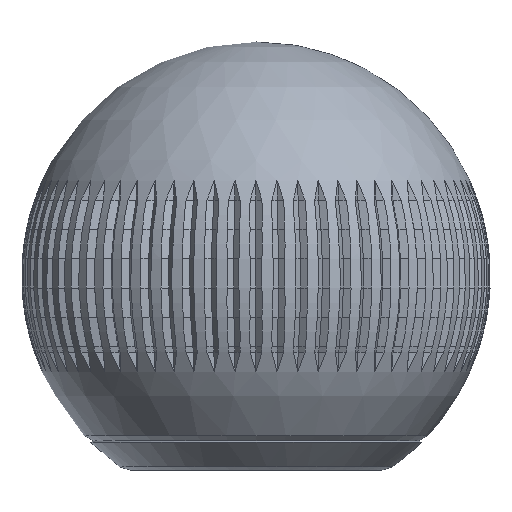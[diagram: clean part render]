
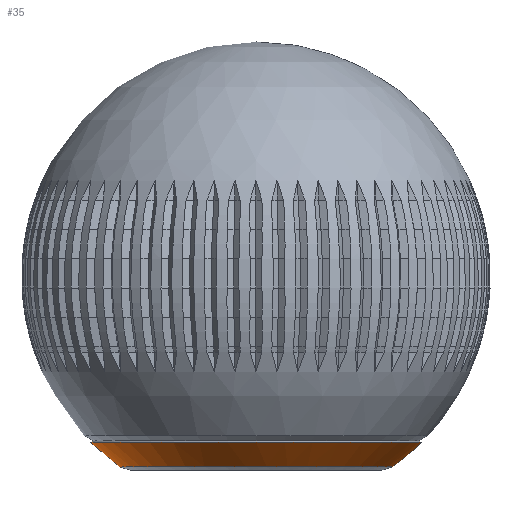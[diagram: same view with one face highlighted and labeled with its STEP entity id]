
A CAD part, front view. The second image highlights one B-rep face of the part: STEP entity #35.
In plain terms, the highlighted spherical face has radius 8 mm.
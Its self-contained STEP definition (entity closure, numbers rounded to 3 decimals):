
#35 = ADVANCED_FACE('',(#36),#51,.T.);
#36 = FACE_BOUND('',#37,.T.);
#37 = EDGE_LOOP('',(#38,#69,#152,#153));
#38 = ORIENTED_EDGE('',*,*,#39,.F.);
#39 = EDGE_CURVE('',#40,#42,#44,.T.);
#40 = VERTEX_POINT('',#41);
#41 = CARTESIAN_POINT('',(4.664,0.,0.115));
#42 = VERTEX_POINT('',#43);
#43 = CARTESIAN_POINT('',(5.646,0.,
    0.946));
#44 = SEAM_CURVE('',#45,(#50,#62),.PCURVE_S1.);
#45 = CIRCLE('',#46,8.);
#46 = AXIS2_PLACEMENT_3D('',#47,#48,#49);
#47 = CARTESIAN_POINT('',(0.,0.,6.614));
#48 = DIRECTION('',(0.,-1.,0.));
#49 = DIRECTION('',(1.,0.,0.));
#50 = PCURVE('',#51,#56);
#51 = SPHERICAL_SURFACE('',#52,8.);
#52 = AXIS2_PLACEMENT_3D('',#53,#54,#55);
#53 = CARTESIAN_POINT('',(0.,0.,6.614));
#54 = DIRECTION('',(0.,0.,1.));
#55 = DIRECTION('',(1.,0.,-0.));
#56 = DEFINITIONAL_REPRESENTATION('',(#57),#61);
#57 = LINE('',#58,#59);
#58 = CARTESIAN_POINT('',(0.,-6.283));
#59 = VECTOR('',#60,1.);
#60 = DIRECTION('',(0.,1.));
#61 = ( GEOMETRIC_REPRESENTATION_CONTEXT(2) 
PARAMETRIC_REPRESENTATION_CONTEXT() REPRESENTATION_CONTEXT('2D SPACE',''
  ) );
#62 = PCURVE('',#51,#63);
#63 = DEFINITIONAL_REPRESENTATION('',(#64),#68);
#64 = LINE('',#65,#66);
#65 = CARTESIAN_POINT('',(6.283,-6.283));
#66 = VECTOR('',#67,1.);
#67 = DIRECTION('',(0.,1.));
#68 = ( GEOMETRIC_REPRESENTATION_CONTEXT(2) 
PARAMETRIC_REPRESENTATION_CONTEXT() REPRESENTATION_CONTEXT('2D SPACE',''
  ) );
#69 = ORIENTED_EDGE('',*,*,#70,.T.);
#70 = EDGE_CURVE('',#40,#40,#71,.T.);
#71 = SURFACE_CURVE('',#72,(#88,#114),.PCURVE_S1.);
#72 = B_SPLINE_CURVE_WITH_KNOTS('',14,(#73,#74,#75,#76,#77,#78,#79,#80,
    #81,#82,#83,#84,#85,#86,#87),.UNSPECIFIED.,.T.,.F.,(15,15),(
    0.,28.274),.PIECEWISE_BEZIER_KNOTS.);
#73 = CARTESIAN_POINT('',(4.664,0.,0.115));
#74 = CARTESIAN_POINT('',(4.664,2.063,0.115)
  );
#75 = CARTESIAN_POINT('',(3.681,4.17,0.115)
  );
#76 = CARTESIAN_POINT('',(1.647,5.771,0.115));
#77 = CARTESIAN_POINT('',(-1.127,6.298,0.115)
  );
#78 = CARTESIAN_POINT('',(-4.001,5.256,0.115)
  );
#79 = CARTESIAN_POINT('',(-5.929,3.192,0.115)
  );
#80 = CARTESIAN_POINT('',(-7.149,0.,
    0.115));
#81 = CARTESIAN_POINT('',(-5.929,-3.192,0.115
    ));
#82 = CARTESIAN_POINT('',(-4.001,-5.256,0.115)
  );
#83 = CARTESIAN_POINT('',(-1.127,-6.298,0.115
    ));
#84 = CARTESIAN_POINT('',(1.647,-5.771,0.115)
  );
#85 = CARTESIAN_POINT('',(3.681,-4.17,0.115));
#86 = CARTESIAN_POINT('',(4.664,-2.063,0.115)
  );
#87 = CARTESIAN_POINT('',(4.664,0.,
    0.115));
#88 = PCURVE('',#51,#89);
#89 = DEFINITIONAL_REPRESENTATION('',(#90),#113);
#90 = B_SPLINE_CURVE_WITH_KNOTS('',11,(#91,#92,#93,#94,#95,#96,#97,#98,
    #99,#100,#101,#102,#103,#104,#105,#106,#107,#108,#109,#110,#111,#112
    ),.UNSPECIFIED.,.F.,.F.,(12,10,12),(0.,
    14.137,28.274),.UNSPECIFIED.);
#91 = CARTESIAN_POINT('',(0.,-0.948));
#92 = CARTESIAN_POINT('',(0.281,-0.948));
#93 = CARTESIAN_POINT('',(0.567,-0.948));
#94 = CARTESIAN_POINT('',(0.854,-0.948));
#95 = CARTESIAN_POINT('',(1.141,-0.948));
#96 = CARTESIAN_POINT('',(1.427,-0.948));
#97 = CARTESIAN_POINT('',(1.714,-0.948));
#98 = CARTESIAN_POINT('',(1.999,-0.948));
#99 = CARTESIAN_POINT('',(2.285,-0.948));
#100 = CARTESIAN_POINT('',(2.57,-0.948));
#101 = CARTESIAN_POINT('',(2.856,-0.948));
#102 = CARTESIAN_POINT('',(3.427,-0.948));
#103 = CARTESIAN_POINT('',(3.713,-0.948));
#104 = CARTESIAN_POINT('',(3.998,-0.948));
#105 = CARTESIAN_POINT('',(4.284,-0.948));
#106 = CARTESIAN_POINT('',(4.569,-0.948));
#107 = CARTESIAN_POINT('',(4.856,-0.948));
#108 = CARTESIAN_POINT('',(5.142,-0.948));
#109 = CARTESIAN_POINT('',(5.43,-0.948));
#110 = CARTESIAN_POINT('',(5.716,-0.948));
#111 = CARTESIAN_POINT('',(6.002,-0.948));
#112 = CARTESIAN_POINT('',(6.283,-0.948));
#113 = ( GEOMETRIC_REPRESENTATION_CONTEXT(2) 
PARAMETRIC_REPRESENTATION_CONTEXT() REPRESENTATION_CONTEXT('2D SPACE',''
  ) );
#114 = PCURVE('',#115,#146);
#115 = B_SPLINE_SURFACE_WITH_KNOTS('',1,14,(
    (#116,#117,#118,#119,#120,#121,#122,#123,#124,#125,#126,#127,#128
      ,#129,#130)
    ,(#131,#132,#133,#134,#135,#136,#137,#138,#139,#140,#141,#142,#143
      ,#144,#145
    )),.UNSPECIFIED.,.F.,.T.,.F.,(2,2),(15,15),(0.,28.274),(
    0.,28.274),.PIECEWISE_BEZIER_KNOTS.);
#116 = CARTESIAN_POINT('',(4.664,0.,0.115));
#117 = CARTESIAN_POINT('',(4.664,2.063,0.115)
  );
#118 = CARTESIAN_POINT('',(3.681,4.17,0.115)
  );
#119 = CARTESIAN_POINT('',(1.647,5.771,0.115)
  );
#120 = CARTESIAN_POINT('',(-1.127,6.298,0.115
    ));
#121 = CARTESIAN_POINT('',(-4.001,5.256,0.115
    ));
#122 = CARTESIAN_POINT('',(-5.929,3.192,0.115
    ));
#123 = CARTESIAN_POINT('',(-7.149,0.,
    0.115));
#124 = CARTESIAN_POINT('',(-5.929,-3.192,
    0.115));
#125 = CARTESIAN_POINT('',(-4.001,-5.256,0.115
    ));
#126 = CARTESIAN_POINT('',(-1.127,-6.298,
    0.115));
#127 = CARTESIAN_POINT('',(1.647,-5.771,0.115
    ));
#128 = CARTESIAN_POINT('',(3.681,-4.17,0.115)
  );
#129 = CARTESIAN_POINT('',(4.664,-2.063,0.115
    ));
#130 = CARTESIAN_POINT('',(4.664,0.,
    0.115));
#131 = CARTESIAN_POINT('',(4.3,0.,0.));
#132 = CARTESIAN_POINT('',(4.3,1.902,0.));
#133 = CARTESIAN_POINT('',(3.394,3.844,0.));
#134 = CARTESIAN_POINT('',(1.519,5.321,0.));
#135 = CARTESIAN_POINT('',(-1.039,5.806,0.));
#136 = CARTESIAN_POINT('',(-3.689,4.845,0.));
#137 = CARTESIAN_POINT('',(-5.467,2.943,0.));
#138 = CARTESIAN_POINT('',(-6.591,0.,0.));
#139 = CARTESIAN_POINT('',(-5.467,-2.943,0.));
#140 = CARTESIAN_POINT('',(-3.689,-4.845,0.));
#141 = CARTESIAN_POINT('',(-1.039,-5.806,0.));
#142 = CARTESIAN_POINT('',(1.519,-5.321,0.));
#143 = CARTESIAN_POINT('',(3.394,-3.844,0.));
#144 = CARTESIAN_POINT('',(4.3,-1.902,0.));
#145 = CARTESIAN_POINT('',(4.3,0.,0.));
#146 = DEFINITIONAL_REPRESENTATION('',(#147),#151);
#147 = LINE('',#148,#149);
#148 = CARTESIAN_POINT('',(0.,0.));
#149 = VECTOR('',#150,1.);
#150 = DIRECTION('',(0.,1.));
#151 = ( GEOMETRIC_REPRESENTATION_CONTEXT(2) 
PARAMETRIC_REPRESENTATION_CONTEXT() REPRESENTATION_CONTEXT('2D SPACE',''
  ) );
#152 = ORIENTED_EDGE('',*,*,#39,.T.);
#153 = ORIENTED_EDGE('',*,*,#154,.F.);
#154 = EDGE_CURVE('',#42,#42,#155,.T.);
#155 = SURFACE_CURVE('',#156,(#161,#168),.PCURVE_S1.);
#156 = CIRCLE('',#157,5.646);
#157 = AXIS2_PLACEMENT_3D('',#158,#159,#160);
#158 = CARTESIAN_POINT('',(0.,0.,0.946));
#159 = DIRECTION('',(0.,0.,1.));
#160 = DIRECTION('',(0.,-1.,0.));
#161 = PCURVE('',#51,#162);
#162 = DEFINITIONAL_REPRESENTATION('',(#163),#167);
#163 = LINE('',#164,#165);
#164 = CARTESIAN_POINT('',(-1.571,-0.787));
#165 = VECTOR('',#166,1.);
#166 = DIRECTION('',(1.,0.));
#167 = ( GEOMETRIC_REPRESENTATION_CONTEXT(2) 
PARAMETRIC_REPRESENTATION_CONTEXT() REPRESENTATION_CONTEXT('2D SPACE',''
  ) );
#168 = PCURVE('',#169,#174);
#169 = CONICAL_SURFACE('',#170,5.999,1.064);
#170 = AXIS2_PLACEMENT_3D('',#171,#172,#173);
#171 = CARTESIAN_POINT('',(0.,0.,0.75));
#172 = DIRECTION('',(-0.,-0.,-1.));
#173 = DIRECTION('',(1.,0.,-0.));
#174 = DEFINITIONAL_REPRESENTATION('',(#175),#179);
#175 = LINE('',#176,#177);
#176 = CARTESIAN_POINT('',(1.571,-0.196));
#177 = VECTOR('',#178,1.);
#178 = DIRECTION('',(-1.,-0.));
#179 = ( GEOMETRIC_REPRESENTATION_CONTEXT(2) 
PARAMETRIC_REPRESENTATION_CONTEXT() REPRESENTATION_CONTEXT('2D SPACE',''
  ) );
